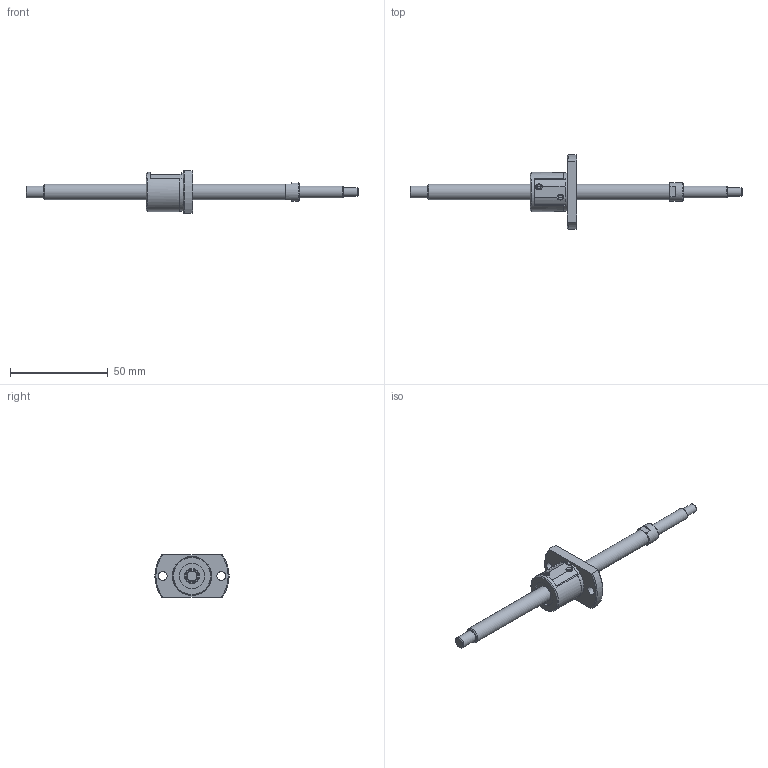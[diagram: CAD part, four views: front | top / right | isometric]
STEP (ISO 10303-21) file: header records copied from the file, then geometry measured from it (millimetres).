
FILE_DESCRIPTION(/* description */ ('STEP AP214'),/* implementation_level */ '2;1');
FILE_NAME(/* name */ 'SG0802-120R170C3C0X(52.5)',/* time_stamp */ '2026-07-21T16:45:15+02:00',/* author */ ('License CC BY-ND 4.0'),/* organization */ ('CADENAS'),/* preprocessor_version */ 'ST-DEVELOPER v20',/* originating_system */ 'PARTsolutions',/* authorisation */ ' ');
FILE_SCHEMA (('AUTOMOTIVE_DESIGN {1 0 10303 214 3 1 1}'));
Length unit declared in the file: millimetre
Products named in the file (3): SG0802-120R170C3C0X(52.5); SG0802-120R170C3C_shaft; SG0802_nut
Assembly tree (2 placements, depth 2):
  SG0802-120R170C3C0X(52.5)
    SG0802-120R170C3C_shaft
    SG0802_nut
Bounding box: 170 x 38 x 22 mm (x, y, z)
Volume: 15891.1 mm3; surface area: 8059.3 mm2
Topology: 2 solids, 2 shells, 75 faces, 181 edges, 118 vertices
Faces by surface type: plane 36, cylinder 24, cone 14, torus 1
Full cylindrical faces by diameter (mm): 4.5 x3, 6 x2, 8 x2, 9.5 x1, 13 x2, 19.7 x1, 20 x1
Entity records: 2117 total; most frequent: CARTESIAN_POINT 396, DIRECTION 358, ORIENTED_EDGE 298, EDGE_CURVE 149, AXIS2_PLACEMENT_3D 149, EDGE_LOOP 112, FACE_BOUND 112, VERTEX_POINT 109
